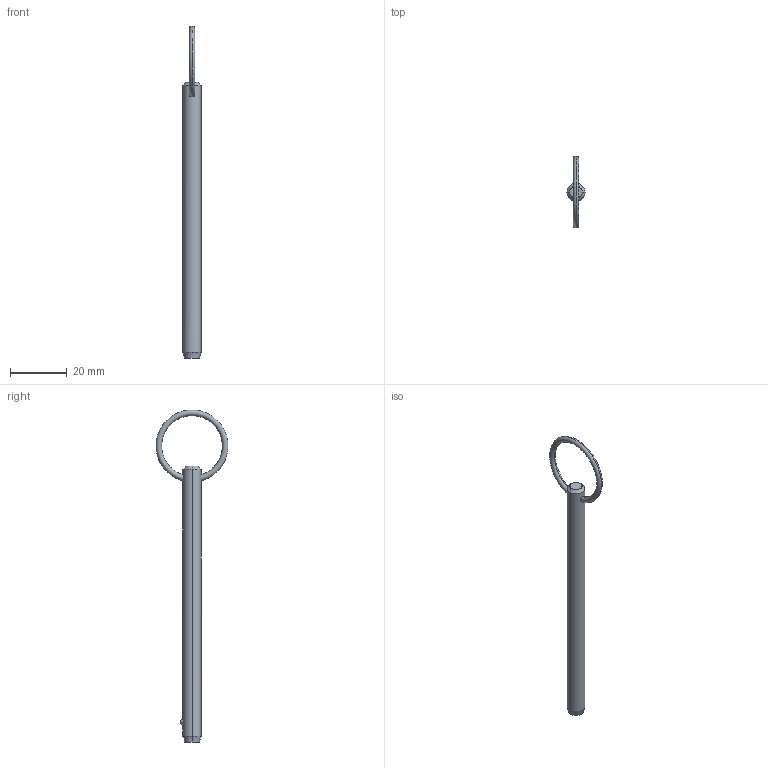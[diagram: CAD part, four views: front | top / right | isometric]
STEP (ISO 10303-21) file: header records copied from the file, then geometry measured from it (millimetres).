
FILE_DESCRIPTION (( 'STEP AP203' ), '1' );
FILE_NAME ('P1250.025-330.step', '2019-07-29T19:45:10', ( '' ), ( '' ), 'SwSTEP 2.0', 'SolidWorks 2017', '' );
FILE_SCHEMA (( 'CONFIG_CONTROL_DESIGN' ));
Length unit declared in the file: millimetre
Products named in the file (1): P1250.025-330
Bounding box: 6.35 x 25.38 x 117.12 mm (x, y, z)
Volume: 3275.1 mm3; surface area: 2398.4 mm2
Topology: 1 solids, 1 shells, 12 faces, 28 edges, 17 vertices
Faces by surface type: cone 4, torus 2, sphere 2, cylinder 2, plane 2
Entity records: 481 total; most frequent: CARTESIAN_POINT 148, DIRECTION 56, ORIENTED_EDGE 48, AXIS2_PLACEMENT_3D 25, EDGE_CURVE 24, VERTEX_POINT 15, EDGE_LOOP 15, FACE_OUTER_BOUND 12
